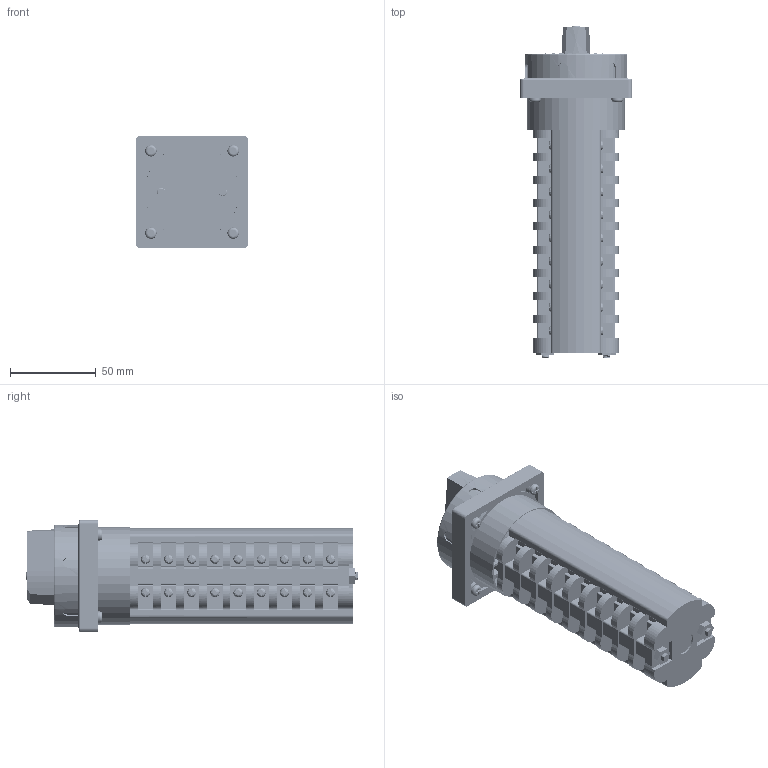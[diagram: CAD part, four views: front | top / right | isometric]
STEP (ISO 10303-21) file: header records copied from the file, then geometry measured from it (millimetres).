
FILE_DESCRIPTION(/* description */ (''),/* implementation_level */ '2;1');
FILE_NAME(/* name */ '4G16,25_S6_9_korpusow.stp',/* time_stamp */ '2021-07-21T10:01:32+02:00',/* author */ (''),/* organization */ (''),/* preprocessor_version */ 'ST-DEVELOPER v18.1',/* originating_system */ 'SIEMENS PLM Software NX 1965',/* authorisation */ '');
FILE_SCHEMA (('AUTOMOTIVE_DESIGN { 1 0 10303 214 3 1 1 1 }'));
Products named in the file (1): 4G16,25_S6_9_korpusow_stp
Bounding box: 65 x 193.6 x 65 mm (x, y, z)
Volume: 362705.9 mm3; surface area: 81692.5 mm2
Topology: 2 solids, 11 shells, 2049 faces, 5740 edges, 3779 vertices
Faces by surface type: plane 1215, cylinder 548, bspline 187, cone 78, torus 15, extrusion 6
Full cylindrical faces by diameter (mm): 2.9 x7, 3.1 x1, 4.3 x4, 5 x2, 5.4 x37, 5.6 x1, 6 x1, 6.7 x4, 7.2 x4, 8 x1, 14 x1, 55.8 x1, 57 x1, 58 x1, 60 x1
Entity records: 187891 total; most frequent: CARTESIAN_POINT 137713, ORIENTED_EDGE 11020, DIRECTION 9407, EDGE_CURVE 5510, VERTEX_POINT 3668, AXIS2_PLACEMENT_3D 3362, VECTOR 2683, LINE 2677
